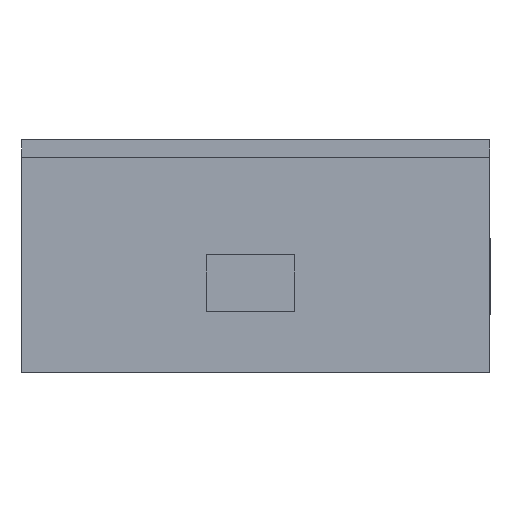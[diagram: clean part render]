
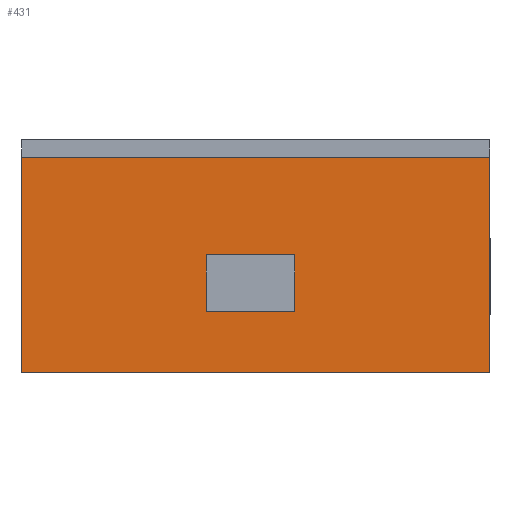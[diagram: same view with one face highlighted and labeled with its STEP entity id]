
A CAD part, left-side view. The second image highlights one B-rep face of the part: STEP entity #431.
In plain terms, the highlighted free-form (B-spline) face has degree [1, 1] with [2, 2] control points.
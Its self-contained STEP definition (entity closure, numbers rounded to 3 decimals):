
#301 = EDGE_CURVE('',#302,#304,#306,.T.);
#302 = VERTEX_POINT('',#303);
#303 = CARTESIAN_POINT('',(68.,-84.,0.));
#304 = VERTEX_POINT('',#305);
#305 = CARTESIAN_POINT('',(68.,-84.,34.));
#306 = B_SPLINE_CURVE_WITH_KNOTS('',1,(#307,#308),.UNSPECIFIED.,.F.,.F.,
  (2,2),(0.,34.),.PIECEWISE_BEZIER_KNOTS.);
#307 = CARTESIAN_POINT('',(68.,-84.,0.));
#308 = CARTESIAN_POINT('',(68.,-84.,34.));
#431 = ADVANCED_FACE('',(#432,#468),#498,.T.);
#432 = FACE_BOUND('',#433,.T.);
#433 = EDGE_LOOP('',(#434,#443,#450,#457,#462,#463));
#434 = ORIENTED_EDGE('',*,*,#435,.T.);
#435 = EDGE_CURVE('',#436,#438,#440,.T.);
#436 = VERTEX_POINT('',#437);
#437 = CARTESIAN_POINT('',(68.,-158.,0.));
#438 = VERTEX_POINT('',#439);
#439 = CARTESIAN_POINT('',(68.,-158.,34.));
#440 = B_SPLINE_CURVE_WITH_KNOTS('',1,(#441,#442),.UNSPECIFIED.,.F.,.F.,
  (2,2),(0.,34.),.PIECEWISE_BEZIER_KNOTS.);
#441 = CARTESIAN_POINT('',(68.,-158.,0.));
#442 = CARTESIAN_POINT('',(68.,-158.,34.));
#443 = ORIENTED_EDGE('',*,*,#444,.T.);
#444 = EDGE_CURVE('',#438,#445,#447,.T.);
#445 = VERTEX_POINT('',#446);
#446 = CARTESIAN_POINT('',(68.,-154.5,34.));
#447 = B_SPLINE_CURVE_WITH_KNOTS('',1,(#448,#449),.UNSPECIFIED.,.F.,.F.,
  (2,2),(0.,3.5),.PIECEWISE_BEZIER_KNOTS.);
#448 = CARTESIAN_POINT('',(68.,-158.,34.));
#449 = CARTESIAN_POINT('',(68.,-154.5,34.));
#450 = ORIENTED_EDGE('',*,*,#451,.T.);
#451 = EDGE_CURVE('',#445,#452,#454,.T.);
#452 = VERTEX_POINT('',#453);
#453 = CARTESIAN_POINT('',(68.,-87.5,34.));
#454 = B_SPLINE_CURVE_WITH_KNOTS('',1,(#455,#456),.UNSPECIFIED.,.F.,.F.,
  (2,2),(3.5,70.5),.PIECEWISE_BEZIER_KNOTS.);
#455 = CARTESIAN_POINT('',(68.,-154.5,34.));
#456 = CARTESIAN_POINT('',(68.,-87.5,34.));
#457 = ORIENTED_EDGE('',*,*,#458,.T.);
#458 = EDGE_CURVE('',#452,#304,#459,.T.);
#459 = B_SPLINE_CURVE_WITH_KNOTS('',1,(#460,#461),.UNSPECIFIED.,.F.,.F.,
  (2,2),(70.5,74.),.PIECEWISE_BEZIER_KNOTS.);
#460 = CARTESIAN_POINT('',(68.,-87.5,34.));
#461 = CARTESIAN_POINT('',(68.,-84.,34.));
#462 = ORIENTED_EDGE('',*,*,#301,.F.);
#463 = ORIENTED_EDGE('',*,*,#464,.F.);
#464 = EDGE_CURVE('',#436,#302,#465,.T.);
#465 = B_SPLINE_CURVE_WITH_KNOTS('',1,(#466,#467),.UNSPECIFIED.,.F.,.F.,
  (2,2),(0.,74.),.PIECEWISE_BEZIER_KNOTS.);
#466 = CARTESIAN_POINT('',(68.,-158.,0.));
#467 = CARTESIAN_POINT('',(68.,-84.,0.));
#468 = FACE_BOUND('',#469,.T.);
#469 = EDGE_LOOP('',(#470,#479,#486,#493));
#470 = ORIENTED_EDGE('',*,*,#471,.T.);
#471 = EDGE_CURVE('',#472,#474,#476,.T.);
#472 = VERTEX_POINT('',#473);
#473 = CARTESIAN_POINT('',(68.,-127.15,9.6));
#474 = VERTEX_POINT('',#475);
#475 = CARTESIAN_POINT('',(68.,-113.15,9.6));
#476 = B_SPLINE_CURVE_WITH_KNOTS('',1,(#477,#478),.UNSPECIFIED.,.F.,.F.,
  (2,2),(8.425,22.425),.PIECEWISE_BEZIER_KNOTS.);
#477 = CARTESIAN_POINT('',(68.,-127.15,9.6));
#478 = CARTESIAN_POINT('',(68.,-113.15,9.6));
#479 = ORIENTED_EDGE('',*,*,#480,.T.);
#480 = EDGE_CURVE('',#474,#481,#483,.T.);
#481 = VERTEX_POINT('',#482);
#482 = CARTESIAN_POINT('',(68.,-113.15,18.6));
#483 = B_SPLINE_CURVE_WITH_KNOTS('',1,(#484,#485),.UNSPECIFIED.,.F.,.F.,
  (2,2),(4.8,13.8),.PIECEWISE_BEZIER_KNOTS.);
#484 = CARTESIAN_POINT('',(68.,-113.15,9.6));
#485 = CARTESIAN_POINT('',(68.,-113.15,18.6));
#486 = ORIENTED_EDGE('',*,*,#487,.F.);
#487 = EDGE_CURVE('',#488,#481,#490,.T.);
#488 = VERTEX_POINT('',#489);
#489 = CARTESIAN_POINT('',(68.,-127.15,18.6));
#490 = B_SPLINE_CURVE_WITH_KNOTS('',1,(#491,#492),.UNSPECIFIED.,.F.,.F.,
  (2,2),(8.425,22.425),.PIECEWISE_BEZIER_KNOTS.);
#491 = CARTESIAN_POINT('',(68.,-127.15,18.6));
#492 = CARTESIAN_POINT('',(68.,-113.15,18.6));
#493 = ORIENTED_EDGE('',*,*,#494,.F.);
#494 = EDGE_CURVE('',#472,#488,#495,.T.);
#495 = B_SPLINE_CURVE_WITH_KNOTS('',1,(#496,#497),.UNSPECIFIED.,.F.,.F.,
  (2,2),(4.8,13.8),.PIECEWISE_BEZIER_KNOTS.);
#496 = CARTESIAN_POINT('',(68.,-127.15,9.6));
#497 = CARTESIAN_POINT('',(68.,-127.15,18.6));
#498 = B_SPLINE_SURFACE_WITH_KNOTS('',1,1,(
    (#499,#500)
    ,(#501,#502
    )),.UNSPECIFIED.,.F.,.F.,.F.,(2,2),(2,2),(0.,74.),(-34.,0.),
  .PIECEWISE_BEZIER_KNOTS.);
#499 = CARTESIAN_POINT('',(68.,-158.,34.));
#500 = CARTESIAN_POINT('',(68.,-158.,0.));
#501 = CARTESIAN_POINT('',(68.,-84.,34.));
#502 = CARTESIAN_POINT('',(68.,-84.,0.));
